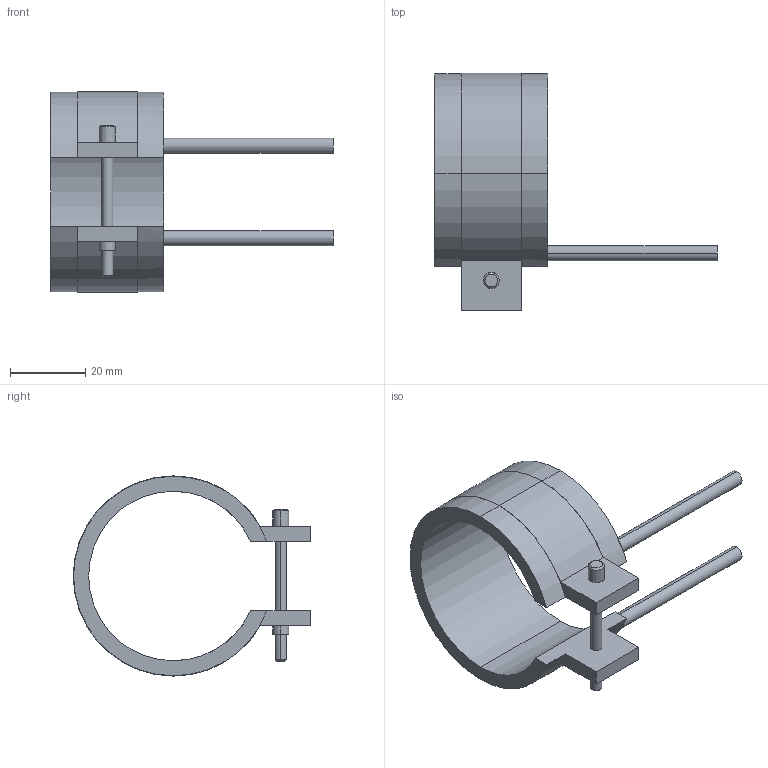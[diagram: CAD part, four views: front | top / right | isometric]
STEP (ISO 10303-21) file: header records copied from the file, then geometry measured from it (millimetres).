
FILE_DESCRIPTION(('CATIA V5 STEP Exchange'),'2;1');
FILE_NAME('C:\Users\Utente\Desktop\IO LAVORO\3D X SITO CF\X SITO\PLASTICA\RF2\14045030.stp','2021-03-31T12:00:09+00:00',('none'),('none'),'CATIA Version 5 Release 20 GA (IN-10)','CATIA V5 STEP AP203','none');
FILE_SCHEMA(('CONFIG_CONTROL_DESIGN'));
Length unit declared in the file: millimetre
Products named in the file (1): 14045030
Bounding box: 75 x 63.1 x 53.2 mm (x, y, z)
Volume: 19431.6 mm3; surface area: 11908.6 mm2
Topology: 1 solids, 1 shells, 45 faces, 116 edges, 76 vertices
Faces by surface type: cylinder 24, plane 17, cone 4
Entity records: 1406 total; most frequent: CARTESIAN_POINT 282, ORIENTED_EDGE 232, DIRECTION 195, EDGE_CURVE 116, AXIS2_PLACEMENT_3D 103, VERTEX_POINT 76, CIRCLE 61, VECTOR 52
